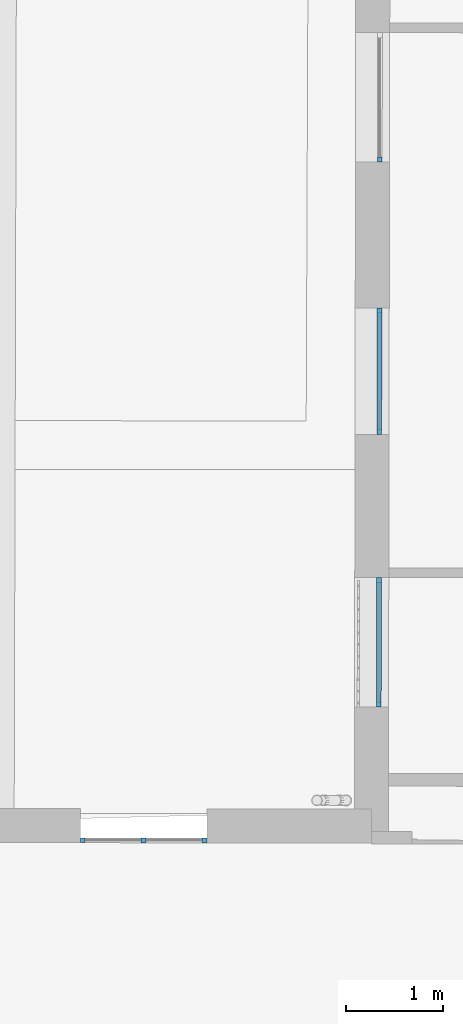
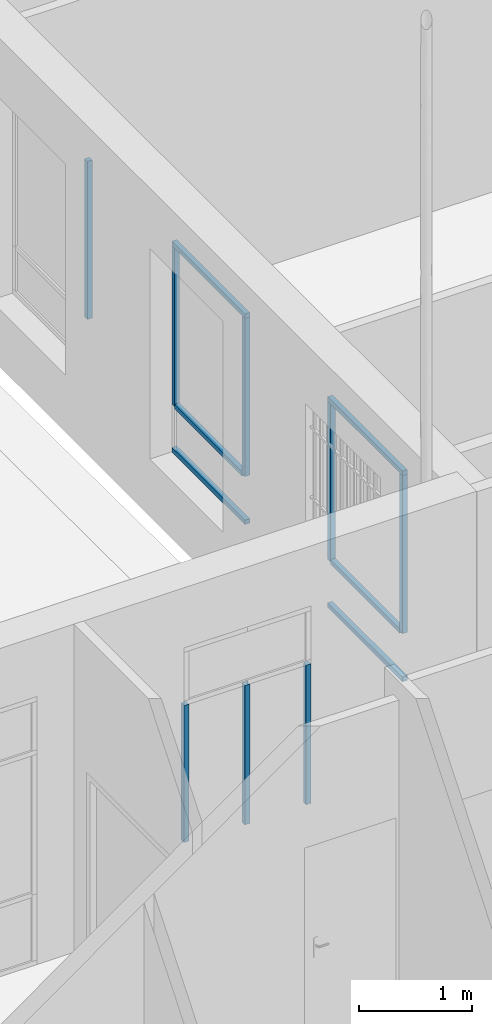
# One storey, part 14 of 101: 14 members, 4 elements without a shape of their own.
"""IFC2X3 building model written with IfcOpenShell, lengths in metres."""

from ifc_helpers import new_model, entity, si_unit, converted_unit, derived_unit, direction, frame, frame_2d, origin, origin_2d_with_axis, place, context, subcontext, project, spatial, rectangle, extrude, source, transform, mapped, material, type_object, type_shapes, element, aggregate, save


model = new_model("IFC2X3")

# Units and contexts
model_context = context("Model", 3, precision=1e-05, world=origin(), true_north=direction((6.123233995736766e-17, 1.0)))
body_context = subcontext(model_context, "Body", "Model", "MODEL_VIEW")
ifc_project = project(units=[si_unit("LENGTHUNIT", "METRE"), si_unit("AREAUNIT", "SQUARE_METRE"), converted_unit("PLANEANGLEUNIT", "DEGREE", entity("IfcPlaneAngleMeasure", 0.017453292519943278), si_unit("PLANEANGLEUNIT", "RADIAN"), dimensions=[0, 0, 0, 0, 0, 0, 0]), derived_unit("THERMALTRANSMITTANCEUNIT", [(si_unit("MASSUNIT", "GRAM", prefix="KILO"), 1), (si_unit("THERMODYNAMICTEMPERATUREUNIT", "KELVIN"), -1), (si_unit("TIMEUNIT", "SECOND"), -3)])], contexts=[model_context])

# Site, building, storey
site_placement = place(None, frame((1253.6752467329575, 2072.143113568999, 91.49999999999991), z_axis=(0.0, 0.0, 1.0), x_axis=(0.7237211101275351, 0.6900925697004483, 0.0)))
site = spatial("IfcSite", under=ifc_project, at=site_placement, Name="Surface", CompositionType="ELEMENT")
building_placement = place(site_placement, origin())
building = spatial("IfcBuilding", under=site, at=building_placement, CompositionType="ELEMENT")
storey_placement = place(building_placement, origin())
storey = spatial("IfcBuildingStorey", under=building, at=storey_placement, Name="0- Rdc", CompositionType="ELEMENT", Elevation=-5.764692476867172e-13)

# Curtain wall, members
curtain_wall_type_1 = type_object("IfcCurtainWallType", Name="Mur-rideau:Menuiserie Ext 1F+1OB VERTIC", PredefinedType="NOTDEFINED")
curtain_wall_1_placement = place(storey_placement, origin())
curtain_wall_1 = element("IfcCurtainWall", 1, at=curtain_wall_1_placement, inside=storey, type_object=curtain_wall_type_1, Name="Mur-rideau:Menuiserie Ext 1F+1OB VERTIC", ObjectType="Mur-rideau:Menuiserie Ext 1F+1OB VERTIC")
ifc_material = material(Name="OMD_Aluminium Men Ext")
member_type_1 = type_object("IfcMemberType", Name="Meneau rectangulaire:50x50", PredefinedType="MULLION", material=ifc_material)
shared_shape_1 = source(origin(), body_context, "Body", "SweptSolid", [
    extrude(rectangle(XDim=0.05, YDim=0.049999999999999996, at=origin_2d_with_axis()), frame((-0.025, 0.0, -1.2996959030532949), z_axis=(0.0, 0.0, 1.0), x_axis=(-1.0, 0.0, 0.0)), (0.0, 0.0, 1.0), 1.2996959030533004),
])
type_shapes(member_type_1, [shared_shape_1])
member_1_placement = place(curtain_wall_1_placement, frame((179.11754214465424, -9.978150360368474, 2.8999999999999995), z_axis=(0.6913353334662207, 0.7225340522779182, 0.0), x_axis=(0.0, 0.0, 1.0)))
member_1 = element("IfcMember", 2, at=member_1_placement, type_object=member_type_1, material=ifc_material, Name="Meneau rectangulaire:50x50", ObjectType="Meneau rectangulaire:50x50", context=body_context, shape_type="MappedRepresentation", body=[
    mapped(shared_shape_1, transform((0.0, 0.0, 0.0), scale=1.0)),
])
member_type_2 = type_object("IfcMemberType", Name="Meneau rectangulaire:50x50", PredefinedType="MULLION", material=ifc_material)
shared_shape_2 = source(origin(), body_context, "Body", "SweptSolid", [
    extrude(rectangle(XDim=0.05, YDim=0.05, at=origin_2d_with_axis()), frame((-0.025, 0.0, -1.2996959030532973), z_axis=(0.0, 0.0, 1.0), x_axis=(-1.0, 0.0, 0.0)), (0.0, 0.0, 1.0), 1.2996959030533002),
])
type_shapes(member_type_2, [shared_shape_2])
member_2_placement = place(curtain_wall_1_placement, frame((178.21901644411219, -10.91722490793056, 0.62), z_axis=(-0.6913353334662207, -0.7225340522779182, 0.0), x_axis=(0.0, 0.0, -1.0)))
member_2 = element("IfcMember", 3, at=member_2_placement, type_object=member_type_2, material=ifc_material, Name="Meneau rectangulaire:50x50", ObjectType="Meneau rectangulaire:50x50", context=body_context, shape_type="MappedRepresentation", body=[
    mapped(shared_shape_2, transform((0.0, 0.0, 0.0), scale=1.0)),
])

# Curtain wall, member
curtain_wall_2_placement = place(storey_placement, origin())
curtain_wall_2 = element("IfcCurtainWall", 4, at=curtain_wall_2_placement, inside=storey, type_object=curtain_wall_type_1, Name="Mur-rideau:Menuiserie Ext 1F+1OB VERTIC", ObjectType="Mur-rideau:Menuiserie Ext 1F+1OB VERTIC")
member_type_3 = type_object("IfcMemberType", Name="Meneau rectangulaire:50x50", PredefinedType="MULLION", material=ifc_material)
shared_shape_3 = source(origin(), body_context, "Body", "SweptSolid", [
    extrude(rectangle(XDim=0.05, YDim=0.049999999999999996, at=origin_2d_with_axis()), frame((-0.025, 0.0, -1.7099999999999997), z_axis=(0.0, 0.0, 1.0), x_axis=(-1.0, 0.0, 0.0)), (0.0, 0.0, 1.0), 1.7099999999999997),
])
type_shapes(member_type_3, [shared_shape_3])
member_3_placement = place(curtain_wall_2_placement, frame((180.15475537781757, -8.894129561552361, 2.8499999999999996), z_axis=(0.0, 0.0, 1.0), x_axis=(-0.6913353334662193, -0.7225340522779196, 0.0)))
member_3 = element("IfcMember", 5, at=member_3_placement, type_object=member_type_3, material=ifc_material, Name="Meneau rectangulaire:50x50", ObjectType="Meneau rectangulaire:50x50", context=body_context, shape_type="MappedRepresentation", body=[
    mapped(shared_shape_3, transform((0.0, 0.0, 0.0), scale=1.0)),
])
aggregate(curtain_wall_2, [member_3])

# Member
member_4_placement = place(curtain_wall_1_placement, frame((178.2190164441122, -10.917224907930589, 2.8499999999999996), z_axis=(0.0, 0.0, 1.0), x_axis=(-0.6913353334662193, -0.7225340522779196, 0.0)))
member_4 = element("IfcMember", 6, at=member_4_placement, type_object=member_type_3, material=ifc_material, Name="Meneau rectangulaire:50x50", ObjectType="Meneau rectangulaire:50x50", context=body_context, shape_type="MappedRepresentation", body=[
    mapped(shared_shape_3, transform((0.0, 0.0, 0.0), scale=1.0)),
])

# Curtain wall, member
curtain_wall_3_placement = place(storey_placement, origin())
curtain_wall_3 = element("IfcCurtainWall", 7, at=curtain_wall_3_placement, inside=storey, type_object=curtain_wall_type_1, Name="Mur-rideau:Menuiserie Ext 1F+1OB VERTIC", ObjectType="Mur-rideau:Menuiserie Ext 1F+1OB VERTIC")
member_5_placement = place(curtain_wall_3_placement, frame((176.28327751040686, -12.940320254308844, 2.8499999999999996), z_axis=(0.0, 0.0, 1.0), x_axis=(-0.6913353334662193, -0.7225340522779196, 0.0)))
member_5 = element("IfcMember", 8, at=member_5_placement, type_object=member_type_3, material=ifc_material, Name="Meneau rectangulaire:50x50", ObjectType="Meneau rectangulaire:50x50", context=body_context, shape_type="MappedRepresentation", body=[
    mapped(shared_shape_3, transform((0.0, 0.0, 0.0), scale=1.0)),
])

# Member
member_type_4 = type_object("IfcMemberType", Name="Meneau rectangulaire:50x50", PredefinedType="MULLION", material=ifc_material)
shared_shape_4 = source(origin(), body_context, "Body", "SweptSolid", [
    extrude(rectangle(XDim=0.05, YDim=0.049999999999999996, at=origin_2d_with_axis()), frame((-0.025, 0.0, -1.7099999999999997), z_axis=(0.0, 0.0, 1.0), x_axis=(-1.0, 0.0, 0.0)), (0.0, 0.0, 1.0), 1.7099999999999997),
])
type_shapes(member_type_4, [shared_shape_4])
member_6_placement = place(curtain_wall_1_placement, frame((179.11754214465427, -9.978150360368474, 1.14), z_axis=(0.0, 0.0, -1.0), x_axis=(0.6913353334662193, 0.7225340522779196, 0.0)))
member_6 = element("IfcMember", 9, at=member_6_placement, type_object=member_type_4, material=ifc_material, Name="Meneau rectangulaire:50x50", ObjectType="Meneau rectangulaire:50x50", context=body_context, shape_type="MappedRepresentation", body=[
    mapped(shared_shape_4, transform((0.0, 0.0, 0.0), scale=1.0)),
])

member_7_placement = place(curtain_wall_3_placement, frame((177.20250596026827, -11.97960867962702, 1.14), z_axis=(0.0, 0.0, -1.0), x_axis=(0.6913353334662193, 0.7225340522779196, 0.0)))
member_7 = element("IfcMember", 10, at=member_7_placement, type_object=member_type_4, material=ifc_material, Name="Meneau rectangulaire:50x50", ObjectType="Meneau rectangulaire:50x50", context=body_context, shape_type="MappedRepresentation", body=[
    mapped(shared_shape_4, transform((0.0, 0.0, 0.0), scale=1.0)),
])

member_type_5 = type_object("IfcMemberType", Name="Meneau rectangulaire:50x50", PredefinedType="MULLION", material=ifc_material)
shared_shape_5 = source(origin(), body_context, "Body", "SweptSolid", [
    extrude(rectangle(XDim=0.05, YDim=0.05, at=frame_2d((0.0, -1.734723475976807e-18), x_axis=(1.0, 0.0))), frame((0.0, 0.0, -1.1996959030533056), z_axis=(0.0, 0.0, 1.0), x_axis=(-1.0, 0.0, 0.0)), (0.0, 0.0, 1.0), 1.1996959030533),
])
type_shapes(member_type_5, [shared_shape_5])
member_8_placement = place(curtain_wall_1_placement, frame((179.08297537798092, -10.014277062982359, 1.14), z_axis=(0.6913353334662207, 0.7225340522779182, 0.0), x_axis=(0.0, 0.0, 1.0)))
member_8 = element("IfcMember", 11, at=member_8_placement, type_object=member_type_5, material=ifc_material, Name="Meneau rectangulaire:50x50", ObjectType="Meneau rectangulaire:50x50", context=body_context, shape_type="MappedRepresentation", body=[
    mapped(shared_shape_5, transform((0.0, 0.0, 0.0), scale=1.0)),
])

aggregate(curtain_wall_1, [member_1, member_2, member_4, member_6, member_8])

member_type_6 = type_object("IfcMemberType", Name="Meneau rectangulaire:50x50", PredefinedType="MULLION", material=ifc_material)
shared_shape_6 = source(origin(), body_context, "Body", "SweptSolid", [
    extrude(rectangle(XDim=0.05, YDim=0.05, at=origin_2d_with_axis()), frame((-0.025, 0.0, -1.3296959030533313), z_axis=(0.0, 0.0, 1.0), x_axis=(-1.0, 0.0, 0.0)), (0.0, 0.0, 1.0), 1.3296959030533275),
])
type_shapes(member_type_6, [shared_shape_6])
member_9_placement = place(curtain_wall_3_placement, frame((177.20250596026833, -11.979608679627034, 2.8999999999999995), z_axis=(0.6913353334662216, 0.7225340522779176, 0.0), x_axis=(0.0, 0.0, 1.0)))
member_9 = element("IfcMember", 12, at=member_9_placement, type_object=member_type_6, material=ifc_material, Name="Meneau rectangulaire:50x50", ObjectType="Meneau rectangulaire:50x50", context=body_context, shape_type="MappedRepresentation", body=[
    mapped(shared_shape_6, transform((0.0, 0.0, 0.0), scale=1.0)),
])

member_type_7 = type_object("IfcMemberType", Name="Meneau rectangulaire:50x50", PredefinedType="MULLION", material=ifc_material)
shared_shape_7 = source(origin(), body_context, "Body", "SweptSolid", [
    extrude(rectangle(XDim=0.05, YDim=0.049999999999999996, at=origin_2d_with_axis()), frame((-0.025, 0.0, -1.329695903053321), z_axis=(0.0, 0.0, 1.0), x_axis=(-1.0, 0.0, 0.0)), (0.0, 0.0, 1.0), 1.3296959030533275),
])
type_shapes(member_type_7, [shared_shape_7])
member_10_placement = place(curtain_wall_3_placement, frame((176.2832775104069, -12.940320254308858, 0.62), z_axis=(-0.6913353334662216, -0.7225340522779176, 0.0), x_axis=(0.0, 0.0, -1.0)))
member_10 = element("IfcMember", 13, at=member_10_placement, type_object=member_type_7, material=ifc_material, Name="Meneau rectangulaire:50x50", ObjectType="Meneau rectangulaire:50x50", context=body_context, shape_type="MappedRepresentation", body=[
    mapped(shared_shape_7, transform((0.0, 0.0, 0.0), scale=1.0)),
])

member_type_8 = type_object("IfcMemberType", Name="Meneau rectangulaire:50x50", PredefinedType="MULLION", material=ifc_material)
shared_shape_8 = source(origin(), body_context, "Body", "SweptSolid", [
    extrude(rectangle(XDim=0.05, YDim=0.05, at=origin_2d_with_axis()), frame((0.0, 0.0, -1.2296959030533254), z_axis=(0.0, 0.0, 1.0), x_axis=(-1.0, 0.0, 0.0)), (0.0, 0.0, 1.0), 1.2296959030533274),
])
type_shapes(member_type_8, [shared_shape_8])
member_11_placement = place(curtain_wall_3_placement, frame((177.16793919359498, -12.01573538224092, 1.14), z_axis=(0.6913353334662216, 0.7225340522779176, 0.0), x_axis=(0.0, 0.0, 1.0)))
member_11 = element("IfcMember", 14, at=member_11_placement, type_object=member_type_8, material=ifc_material, Name="Meneau rectangulaire:50x50", ObjectType="Meneau rectangulaire:50x50", context=body_context, shape_type="MappedRepresentation", body=[
    mapped(shared_shape_8, transform((0.0, 0.0, 0.0), scale=1.0)),
])

aggregate(curtain_wall_3, [member_9, member_10, member_5, member_7, member_11])

# Curtain wall, members
curtain_wall_type_2 = type_object("IfcCurtainWallType", Name="Mur-rideau:Menuiserie Ext 2OF+1F VERTIC", PredefinedType="NOTDEFINED")
curtain_wall_4_placement = place(storey_placement, origin())
curtain_wall_4 = element("IfcCurtainWall", 15, at=curtain_wall_4_placement, inside=storey, type_object=curtain_wall_type_2, Name="Mur-rideau:Menuiserie Ext 2OF+1F VERTIC", ObjectType="Mur-rideau:Menuiserie Ext 2OF+1F VERTIC")
member_type_9 = type_object("IfcMemberType", Name="Meneau rectangulaire:50x50", PredefinedType="MULLION", material=ifc_material)
shared_shape_9 = source(origin(), body_context, "Body", "SweptSolid", [
    extrude(rectangle(XDim=0.05, YDim=0.049999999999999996, at=origin_2d_with_axis()), frame((-0.025, 0.0, -1.508333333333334), z_axis=(0.0, 0.0, 1.0), x_axis=(-1.0, 0.0, 0.0)), (0.0, 0.0, 1.0), 1.508333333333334),
])
type_shapes(member_type_9, [shared_shape_9])
member_12_placement = place(curtain_wall_4_placement, frame((174.0563155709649, -12.714226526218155, 2.2750000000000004), z_axis=(0.0, 0.0, 1.0), x_axis=(0.7228702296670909, -0.6909838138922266, 0.0)))
member_12 = element("IfcMember", 16, at=member_12_placement, type_object=member_type_9, material=ifc_material, Name="Meneau rectangulaire:50x50", ObjectType="Meneau rectangulaire:50x50", context=body_context, shape_type="MappedRepresentation", body=[
    mapped(shared_shape_9, transform((0.0, 0.0, 0.0), scale=1.0)),
])
member_type_10 = type_object("IfcMemberType", Name="Meneau rectangulaire:50x50", PredefinedType="MULLION", material=ifc_material)
shared_shape_10 = source(origin(), body_context, "Body", "SweptSolid", [
    extrude(rectangle(XDim=0.05, YDim=0.049999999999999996, at=origin_2d_with_axis()), frame((-0.025, 0.0, -1.4833333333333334), z_axis=(0.0, 0.0, 1.0), x_axis=(-1.0, 0.0, 0.0)), (0.0, 0.0, 1.0), 1.4833333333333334),
])
type_shapes(member_type_10, [shared_shape_10])
member_13_placement = place(curtain_wall_4_placement, frame((173.11680409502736, -11.816157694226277, 0.7916666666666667), z_axis=(0.0, 0.0, -1.0), x_axis=(-0.7228702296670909, 0.6909838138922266, 0.0)))
member_13 = element("IfcMember", 17, at=member_13_placement, type_object=member_type_10, material=ifc_material, Name="Meneau rectangulaire:50x50", ObjectType="Meneau rectangulaire:50x50", context=body_context, shape_type="MappedRepresentation", body=[
    mapped(shared_shape_10, transform((0.0, 0.0, 0.0), scale=1.0)),
])
member_type_11 = type_object("IfcMemberType", Name="Meneau rectangulaire:50x50", PredefinedType="MULLION", material=ifc_material)
shared_shape_11 = source(origin(), body_context, "Body", "SweptSolid", [
    extrude(rectangle(XDim=0.05, YDim=0.05, at=frame_2d((0.0, 1.734723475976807e-18), x_axis=(1.0, 0.0))), frame((0.0, 0.0, -1.5083333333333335), z_axis=(0.0, 0.0, 1.0), x_axis=(-1.0, 0.0, 0.0)), (0.0, 0.0, 1.0), 1.5083333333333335),
])
type_shapes(member_type_11, [shared_shape_11])
member_14_placement = place(curtain_wall_4_placement, frame((173.58655983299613, -12.265192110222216, 0.7666666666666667), z_axis=(0.0, 0.0, -1.0), x_axis=(-0.7228702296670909, 0.6909838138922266, 0.0)))
member_14 = element("IfcMember", 18, at=member_14_placement, type_object=member_type_11, material=ifc_material, Name="Meneau rectangulaire:50x50", ObjectType="Meneau rectangulaire:50x50", context=body_context, shape_type="MappedRepresentation", body=[
    mapped(shared_shape_11, transform((0.0, 0.0, 0.0), scale=1.0)),
])
aggregate(curtain_wall_4, [member_12, member_13, member_14])

save(model, "model.ifc")
